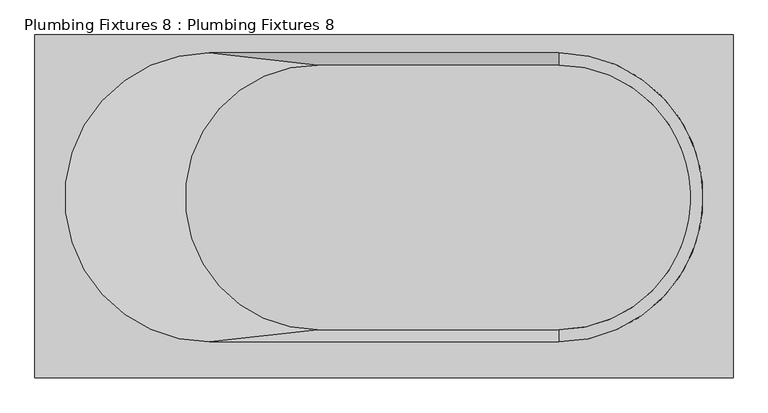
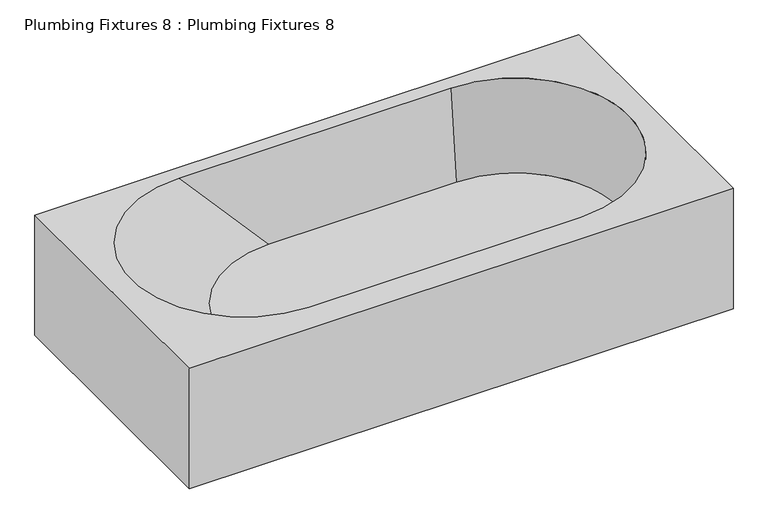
"""IFC4 building model written with IfcOpenShell, lengths in millimetres: flow terminal geometry, Plumbing Fixtures 8 : Plumbing Fixtures 8."""

from ifc_helpers import new_model, si_unit, frame, origin, place, context, project, spatial, polyline, circle_curve, source, transform, mapped, element, save
from ifc_brep_helpers import plane_surface, revolved_surface, spline_surface, advanced_brep


def plumbing_fixtures_8_plumbing_fixtures_8_13d122d2(model_context):
    return source(origin(), model_context, "Body", "AdvancedBrep", [
        advanced_brep(
        [(-2933.7, 13335.0, 345.0), (-1460.5, 13335.0, 345.0), (-1460.5, 14058.9, 345.0), (-2933.7, 14058.9, 345.0), (-2565.4, 14020.8, 345.0), (-1828.8, 14020.8, 345.0), (-1828.8, 13411.2, 345.0), (-2565.4, 13411.2, 345.0), (-2933.7, 13335.0, 0.0), (-2933.7, 14058.9, 0.0), (-1460.5, 14058.9, 0.0), (-1460.5, 13335.0, 0.0), (-1828.8, 13995.4, 91.0), (-2336.8, 13995.4, 91.0), (-2336.8, 13436.6, 91.0), (-1828.8, 13436.6, 91.0)],
        [
            (0, 1),
            (1, 2),
            (2, 3),
            (3, 0),
            (4, 5),
            (5, 6, circle_curve(frame((-1828.8, 13716.0, 345.0), z_axis=(0.0, 0.0, -1.0), x_axis=(0.0, 1.0, 0.0)), 304.8)),
            (6, 7),
            (7, 4, circle_curve(frame((-2565.4, 13716.0, 345.0), z_axis=(0.0, 0.0, -1.0), x_axis=(0.0, -1.0, 0.0)), 304.8)),
            (8, 9),
            (9, 10),
            (10, 11),
            (11, 8),
            (0, 8),
            (11, 1),
            (10, 2),
            (9, 3),
            (12, 13),
            (13, 14, circle_curve(frame((-2336.8, 13716.0, 91.0), z_axis=(0.0, 0.0, 1.0), x_axis=(0.0, -1.0, 0.0)), 279.4)),
            (14, 15),
            (15, 12, circle_curve(frame((-1828.8, 13716.0, 91.0), z_axis=(0.0, 0.0, 1.0), x_axis=(0.0, 1.0, 0.0)), 279.4)),
            (12, 5),
            (4, 13),
            (7, 14),
            (6, 15),
        ],
        [
            plane_surface(frame((-2914.65, 13335.0, 345.0), z_axis=(0.0, 0.0, 1.0), x_axis=(1.0, 0.0, 0.0))),
            plane_surface(frame((-2914.65, 13335.0, 0.0), z_axis=(0.0, 0.0, -1.0), x_axis=(-1.0, 0.0, 0.0))),
            plane_surface(frame((-2933.7, 13335.0, 345.0), z_axis=(0.0, -1.0, 0.0), x_axis=(0.0, 0.0, -1.0))),
            plane_surface(frame((-1460.5, 13335.0, 345.0), z_axis=(1.0, 0.0, 0.0), x_axis=(0.0, 0.0, -1.0))),
            plane_surface(frame((-1460.5, 14058.9, 345.0), z_axis=(0.0, 1.0, 0.0), x_axis=(0.0, 0.0, -1.0))),
            plane_surface(frame((-2933.7, 14058.9, 345.0), z_axis=(-1.0, 0.0, 0.0), x_axis=(0.0, 0.0, -1.0))),
            plane_surface(frame((-2082.8, 13716.0, 91.0), z_axis=(0.0, 0.0, 1.0), x_axis=(-1.0, 0.0, 0.0))),
            plane_surface(frame((-2197.1, 14020.8, 345.0), z_axis=(0.0, -0.9950371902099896, 0.09950371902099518), x_axis=(1.0, 0.0, 0.0))),
            spline_surface(1, 2, [[(-2565.4, 13411.2, 345.0), (-2870.1999999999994, 13411.2, 345.0), (-2870.1999999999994, 13716.0, 345.0), (-2870.1999999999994, 14020.8, 345.0), (-2565.4, 14020.8, 345.0)], [(-2336.8, 13436.6, 91.0), (-2616.2, 13436.6, 91.0), (-2616.2, 13716.0, 91.0), (-2616.2, 13995.4, 91.0), (-2336.8, 13995.4, 91.0)]], [2, 2], [3, 2, 3], [0.0, 1.0], [0.0, 1.0, 2.0], weights=[[1.0, 0.7071067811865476, 1.0, 0.7071067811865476, 1.0], [1.0, 0.7071067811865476, 1.0, 0.7071067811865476, 1.0]]),
            plane_surface(frame((-2197.1, 13411.2, 345.0), z_axis=(0.0, 0.9950371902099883, 0.09950371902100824), x_axis=(-1.0, 0.0, 0.0))),
            revolved_surface(polyline([(-1828.8, 13411.2, 345.0), (-1828.8, 13436.6, 91.0)]), (-1828.8, 13716.0, -2703.0), (0.0, 0.0, 1.0)),
        ],
        [
            (0, [[1, 2, 3, 4], [5, 6, 7, 8]]),
            (1, [[9, 10, 11, 12]]),
            (2, [[-1, 13, -12, 14]]),
            (3, [[-2, -14, -11, 15]]),
            (4, [[-3, -15, -10, 16]]),
            (5, [[-4, -16, -9, -13]]),
            (6, [[17, 18, 19, 20]]),
            (7, [[-17, 21, -5, 22]]),
            (8, [[-18, -22, -8, 23]]),
            (9, [[-19, -23, -7, 24]]),
            (10, [[-20, -24, -6, -21]]),
        ],
    ),
    ])


if __name__ == "__main__":
    model = new_model("IFC4")
    model_context = context("Model", 3, world=origin())
    ifc_project = project(units=[si_unit("LENGTHUNIT", "METRE", prefix="MILLI")], contexts=[model_context])
    site = spatial("IfcSite", under=ifc_project)
    building = spatial("IfcBuilding", under=site)
    placement = place(None, origin())
    plumbing_fixtures_8_plumbing_fixtures_8_shape = plumbing_fixtures_8_plumbing_fixtures_8_13d122d2(model_context)
    element("IfcFlowTerminal", 1, ObjectType="Plumbing Fixtures 8 : Plumbing Fixtures 8", at=placement, inside=building, context=model_context, shape_type="MappedRepresentation", body=[
        mapped(plumbing_fixtures_8_plumbing_fixtures_8_shape, transform((0.0, 0.0, 0.0), x_axis=(1.0, 0.0, 0.0), y_axis=(0.0, 1.0, 0.0), z_axis=(0.0, 0.0, 1.0))),
    ])
    save(model, "model.ifc")
